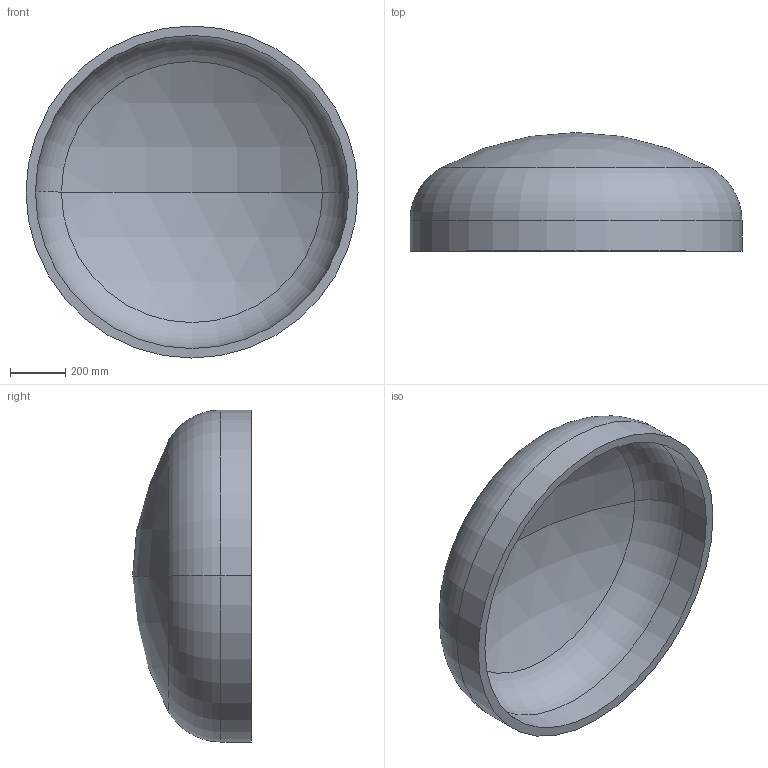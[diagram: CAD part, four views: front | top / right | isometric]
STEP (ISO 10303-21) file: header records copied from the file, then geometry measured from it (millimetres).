
FILE_DESCRIPTION (( 'STEP AP203' ), '1' );
FILE_NAME ('DIN 28013 Korbbogenform_-_Boden DIN 28013 - 1200 x 110 - I - s=34.step', '2016-07-01T09:26:45', ( '' ), ( '' ), 'SwSTEP 2.0', 'SolidWorks 2013', '' );
FILE_SCHEMA (( 'CONFIG_CONTROL_DESIGN' ));
Length unit declared in the file: millimetre
Products named in the file (1): DIN 28013 Korbbogenform_-_Boden DIN 28013 - 1200 x 110 - I - s=34
Bounding box: 1200 x 429.12 x 1200 mm (x, y, z)
Volume: 65030280.2 mm3; surface area: 3952276 mm2
Topology: 1 solids, 1 shells, 13 faces, 24 edges, 14 vertices
Faces by surface type: torus 4, cylinder 4, sphere 4, plane 1
Entity records: 407 total; most frequent: DIRECTION 72, CARTESIAN_POINT 52, ORIENTED_EDGE 48, AXIS2_PLACEMENT_3D 34, EDGE_CURVE 24, CIRCLE 20, EDGE_LOOP 14, VERTEX_POINT 14
